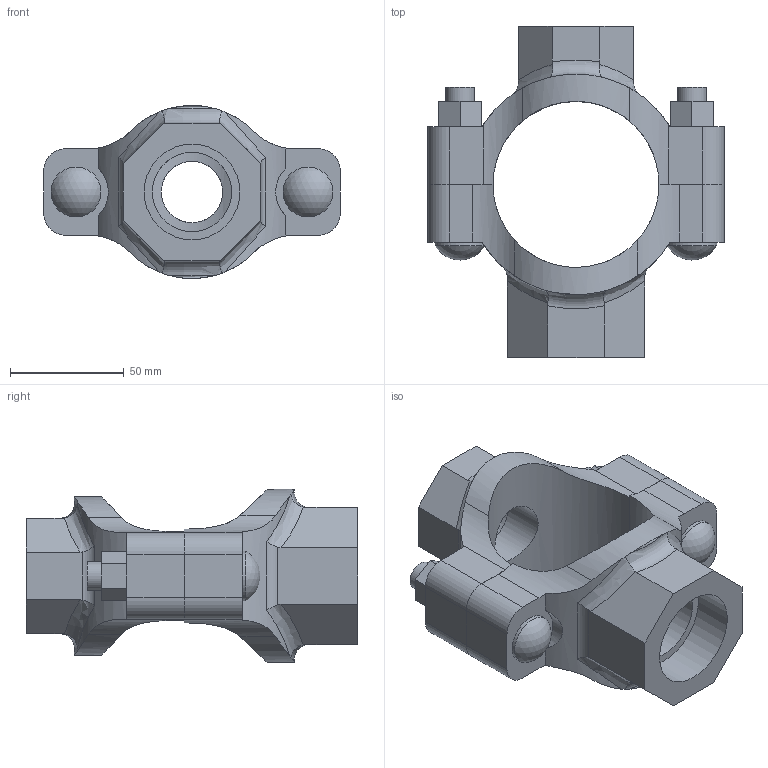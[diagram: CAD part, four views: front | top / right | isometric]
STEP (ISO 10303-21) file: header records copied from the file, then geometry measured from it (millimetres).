
FILE_DESCRIPTION(/* description */ ('VIC MECH-T BRANCH OUTLET CROSS STYLE 920N (THD)','CAx-IF Rec.Pracs.---Representation and Presentation of Product Manufacturing Information (PMI)---4.0---2014-10-13'),/* implementation_level */ '2;1');
FILE_NAME(/* name */ 'C:\Users\Vjadhav\AppData\Roaming\Autodesk\ApplicationPlugins\Back Up\Victaulic_IPS_Mechanical-Cross Outlet_Style 920N (FPT)\Victaulic_IPS_Mechanical-Cross Outlet_02.5x01.0x01.25 (65x25x32).stp',/* time_stamp */ '2020-08-06T18:56:43+05:00',/* author */ ('Vjadhav'),/* organization */ ('Victaulic'),/* preprocessor_version */ 'ST-DEVELOPER v17.2',/* originating_system */ 'Autodesk Inventor 2019',/* authorisation */ '');
FILE_SCHEMA (('AP242_MANAGED_MODEL_BASED_3D_ENGINEERING_MIM_LF { 1 0 10303 442 1 1 4 }'));
Length unit declared in the file: inch
Products named in the file (3): 920NT-02.5x01.0x01.25; 920NT-02.5x01.0; 920NT-02.5x01.25
Assembly tree (2 placements, depth 2):
  920NT-02.5x01.0x01.25
    920NT-02.5x01.0
    920NT-02.5x01.25
Bounding box: 130.56 x 145.8 x 76.2 mm (x, y, z)
Volume: 306499.1 mm3; surface area: 72699.5 mm2
Topology: 2 solids, 2 shells, 135 faces, 362 edges, 244 vertices
Faces by surface type: plane 68, cylinder 53, bspline 8, torus 4, sphere 2
Full cylindrical faces by diameter (mm): 12.7 x4, 21.982 x2, 26.987 x1, 33.401 x1, 34.925 x1, 42.164 x1
Entity records: 5263 total; most frequent: CARTESIAN_POINT 1672, ORIENTED_EDGE 724, DIRECTION 654, EDGE_CURVE 362, VERTEX_POINT 244, AXIS2_PLACEMENT_3D 234, LINE 186, VECTOR 186
